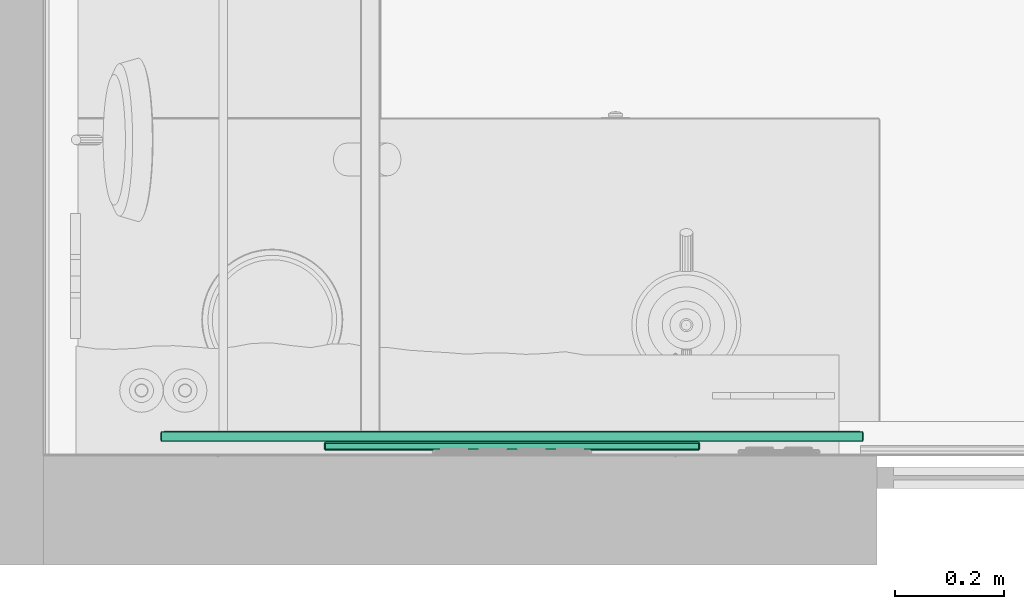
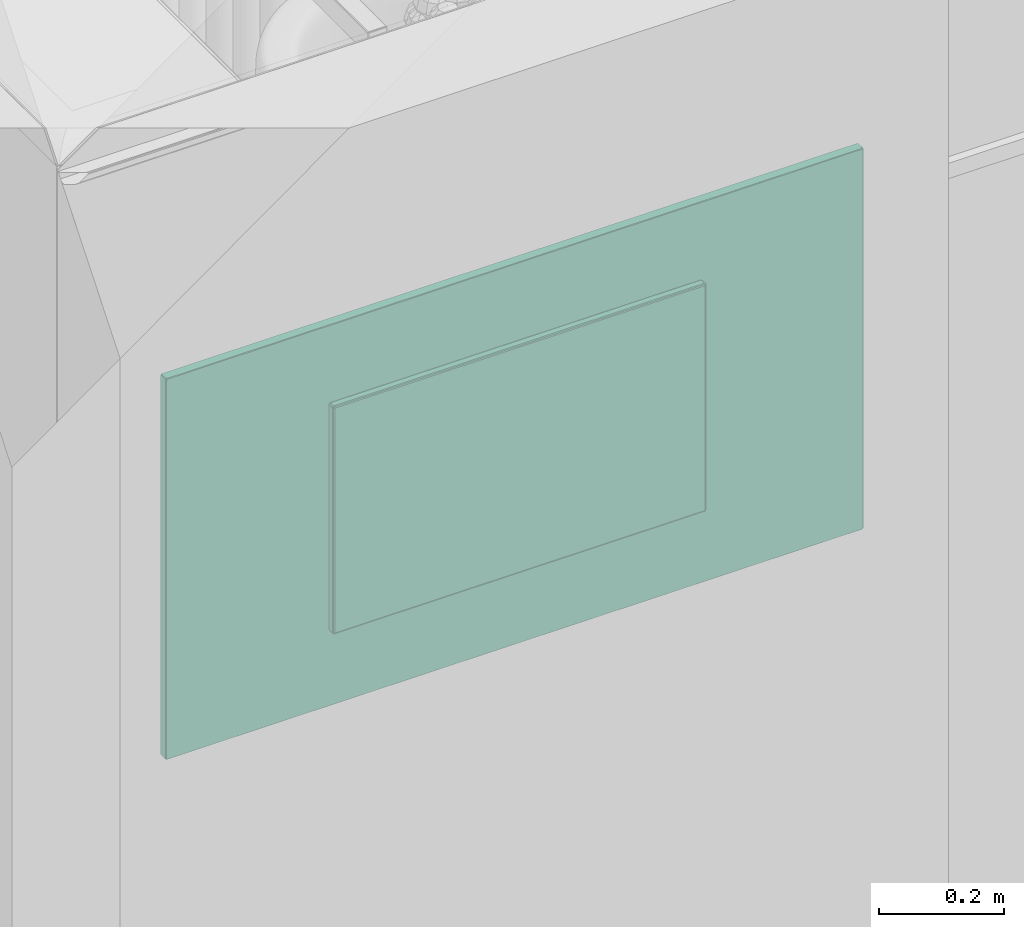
# One storey, part 3 of 11: 1 audio visual appliance.
"""IFC4 building model written with IfcOpenShell, lengths in millimetres."""

from ifc_helpers import new_model, si_unit, frame, origin_with_axes, place, context, subcontext, project, spatial, triangles, material, constituent, constituent_set, element, save


model = new_model("IFC4")

# Units and contexts
model_context = context("Model", 3, precision=0.01, world=origin_with_axes())
body_context = subcontext(model_context, "Body", "Model", "MODEL_VIEW")
ifc_project = project(units=[si_unit("LENGTHUNIT", "METRE", prefix="MILLI"), si_unit("AREAUNIT", "SQUARE_METRE"), si_unit("VOLUMEUNIT", "CUBIC_METRE"), si_unit("PLANEANGLEUNIT", "RADIAN")], contexts=[model_context])

# Site, building, storey
site_placement = place(None, origin_with_axes())
site = spatial("IfcSite", under=ifc_project, at=site_placement, Name="Участок", CompositionType="ELEMENT")
building_placement = place(site_placement, origin_with_axes())
building = spatial("IfcBuilding", under=site, at=building_placement, Name="Жилой дом", CompositionType="ELEMENT")
storey_placement = place(building_placement, origin_with_axes())
storey = spatial("IfcBuildingStorey", under=building, at=storey_placement, Name="Квартира ±0,000", CompositionType="ELEMENT", Elevation=0.0)

# Audio visual appliance
ifc_material_1 = material(Name="Металл чёрный матовый RAL 9005")
ifc_constituent_1 = constituent(ifc_material_1)
ifc_material_2 = material(Name="Экран ТВ")
ifc_constituent_2 = constituent(ifc_material_2)
ifc_constituent_set = constituent_set(constituents=[ifc_constituent_1, ifc_constituent_2], Name="Металл чёрный матовый RAL 9005 + Экран ТВ")
audio_visual_appliance_placement = place(storey_placement, frame((215.0, 10.0, 1700.0)))
element("IfcAudioVisualAppliance", 1, at=audio_visual_appliance_placement, inside=storey, material=ifc_constituent_set, Name="Телевизор 58\" настенный (кронштейн)", PredefinedType="DISPLAY", context=body_context, shape_type="Tessellation", body=[
    triangles([(987.0, 13.0, 150.0), (987.0, 13.0, 150.0), (987.0, 13.0, 150.0), (987.0, 3.0, 150.0), (987.0, 3.0, 150.0), (987.0, 3.0, 150.0), (303.0, 3.0, 150.0), (303.0, 3.0, 150.0), (303.0, 3.0, 150.0), (303.0, 13.0, 150.0), (303.0, 13.0, 150.0), (303.0, 13.0, 150.0), (987.0, 15.1, 150.9), (988.5, 14.5, 150.9), (989.1, 13.0, 150.9), (989.1, 3.0, 150.9), (988.5, 1.5, 150.9), (987.0, 0.9, 150.9), (303.0, 0.9, 150.9), (301.5, 1.5, 150.9), (300.9, 3.0, 150.9), (300.9, 13.0, 150.9), (301.5, 14.5, 150.9), (303.0, 15.1, 150.9), (987.0, 16.0, 153.0), (989.1, 15.1, 153.0), (990.0, 13.0, 153.0), (990.0, 3.0, 153.0), (989.1, 0.9, 153.0), (987.0, 0.0, 153.0), (303.0, 0.0, 153.0), (300.9, 0.9, 153.0), (300.0, 3.0, 153.0), (300.0, 13.0, 153.0), (300.9, 15.1, 153.0), (303.0, 16.0, 153.0), (987.0, 16.0, 592.0), (989.1, 15.1, 592.0), (990.0, 13.0, 592.0), (990.0, 3.0, 592.0), (989.1, 0.9, 592.0), (987.0, 0.0, 592.0), (303.0, 0.0, 592.0), (300.9, 0.9, 592.0), (300.0, 3.0, 592.0), (300.0, 13.0, 592.0), (300.9, 15.1, 592.0), (303.0, 16.0, 592.0), (987.0, 15.1, 594.1), (988.5, 14.5, 594.1), (989.1, 13.0, 594.1), (989.1, 3.0, 594.1), (988.5, 1.5, 594.1), (987.0, 0.9, 594.1), (303.0, 0.9, 594.1), (301.5, 1.5, 594.1), (300.9, 3.0, 594.1), (300.9, 13.0, 594.1), (301.5, 14.5, 594.1), (303.0, 15.1, 594.1), (987.0, 13.0, 595.0), (987.0, 13.0, 595.0), (987.0, 13.0, 595.0), (987.0, 3.0, 595.0), (987.0, 3.0, 595.0), (987.0, 3.0, 595.0), (303.0, 3.0, 595.0), (303.0, 3.0, 595.0), (303.0, 3.0, 595.0), (303.0, 13.0, 595.0), (303.0, 13.0, 595.0), (303.0, 13.0, 595.0), (645.0, 8.0, 150.0), (987.0, 13.0, 150.0), (987.0, 3.0, 150.0), (645.0, 8.0, 150.0), (987.0, 3.0, 150.0), (303.0, 3.0, 150.0), (645.0, 8.0, 150.0), (303.0, 3.0, 150.0), (303.0, 13.0, 150.0), (645.0, 8.0, 150.0), (303.0, 13.0, 150.0), (987.0, 13.0, 150.0), (645.0, 8.0, 595.0), (303.0, 13.0, 595.0), (303.0, 3.0, 595.0), (645.0, 8.0, 595.0), (303.0, 3.0, 595.0), (987.0, 3.0, 595.0), (645.0, 8.0, 595.0), (987.0, 3.0, 595.0), (987.0, 13.0, 595.0), (645.0, 8.0, 595.0), (987.0, 13.0, 595.0), (303.0, 13.0, 595.0), (1287.0, 32.0, 0.0), (1287.0, 32.0, 0.0), (1287.0, 32.0, 0.0), (1287.0, 32.0, 0.0), (1287.0, 19.0, 0.0), (1287.0, 19.0, 0.0), (1287.0, 19.0, 0.0), (1287.0, 19.0, 0.0), (3.0, 19.0, 0.0), (3.0, 19.0, 0.0), (3.0, 19.0, 0.0), (3.0, 19.0, 0.0), (3.0, 32.0, 0.0), (3.0, 32.0, 0.0), (3.0, 32.0, 0.0), (3.0, 32.0, 0.0), (1287.0, 33.5, 0.4), (1287.8, 33.3, 0.4), (1288.3, 32.8, 0.4), (1288.5, 32.0, 0.4), (1288.5, 19.0, 0.4), (1288.3, 18.2, 0.4), (1287.8, 17.7, 0.4), (1287.0, 17.5, 0.4), (3.0, 17.5, 0.4), (2.2, 17.7, 0.4), (1.7, 18.2, 0.4), (1.5, 19.0, 0.4), (1.5, 32.0, 0.4), (1.7, 32.8, 0.4), (2.2, 33.3, 0.4), (3.0, 33.5, 0.4), (1287.0, 34.6, 1.5), (1288.3, 34.2, 1.5), (1289.2, 33.3, 1.5), (1289.6, 32.0, 1.5), (1289.6, 19.0, 1.5), (1289.2, 17.7, 1.5), (1288.3, 16.8, 1.5), (1287.0, 16.4, 1.5), (3.0, 16.4, 1.5), (1.7, 16.8, 1.5), (0.8, 17.7, 1.5), (0.4, 19.0, 1.5), (0.4, 32.0, 1.5), (0.8, 33.3, 1.5), (1.7, 34.2, 1.5), (3.0, 34.6, 1.5), (1287.0, 35.0, 3.0), (1288.5, 34.6, 3.0), (1289.6, 33.5, 3.0), (1290.0, 32.0, 3.0), (1290.0, 19.0, 3.0), (1289.6, 17.5, 3.0), (1288.5, 16.4, 3.0), (1287.0, 16.0, 3.0), (3.0, 16.0, 3.0), (1.5, 16.4, 3.0), (0.4, 17.5, 3.0), (0.0, 19.0, 3.0), (0.0, 32.0, 3.0), (0.4, 33.5, 3.0), (1.5, 34.6, 3.0), (3.0, 35.0, 3.0), (1287.0, 35.0, 742.0), (1288.5, 34.6, 742.0), (1289.6, 33.5, 742.0), (1290.0, 32.0, 742.0), (1290.0, 19.0, 742.0), (1289.6, 17.5, 742.0), (1288.5, 16.4, 742.0), (1287.0, 16.0, 742.0), (3.0, 16.0, 742.0), (1.5, 16.4, 742.0), (0.4, 17.5, 742.0), (0.0, 19.0, 742.0), (0.0, 32.0, 742.0), (0.4, 33.5, 742.0), (1.5, 34.6, 742.0), (3.0, 35.0, 742.0), (1287.0, 34.6, 743.5), (1288.3, 34.2, 743.5), (1289.2, 33.3, 743.5), (1289.6, 32.0, 743.5), (1289.6, 19.0, 743.5), (1289.2, 17.7, 743.5), (1288.3, 16.8, 743.5), (1287.0, 16.4, 743.5), (3.0, 16.4, 743.5), (1.7, 16.8, 743.5), (0.8, 17.7, 743.5), (0.4, 19.0, 743.5), (0.4, 32.0, 743.5), (0.8, 33.3, 743.5), (1.7, 34.2, 743.5), (3.0, 34.6, 743.5), (1287.0, 33.5, 744.6), (1287.8, 33.3, 744.6), (1288.3, 32.8, 744.6), (1288.5, 32.0, 744.6), (1288.5, 19.0, 744.6), (1288.3, 18.2, 744.6), (1287.8, 17.7, 744.6), (1287.0, 17.5, 744.6), (3.0, 17.5, 744.6), (2.2, 17.7, 744.6), (1.7, 18.2, 744.6), (1.5, 19.0, 744.6), (1.5, 32.0, 744.6), (1.7, 32.8, 744.6), (2.2, 33.3, 744.6), (3.0, 33.5, 744.6), (1287.0, 32.0, 745.0), (1287.0, 32.0, 745.0), (1287.0, 32.0, 745.0), (1287.0, 32.0, 745.0), (1287.0, 19.0, 745.0), (1287.0, 19.0, 745.0), (1287.0, 19.0, 745.0), (1287.0, 19.0, 745.0), (3.0, 19.0, 745.0), (3.0, 19.0, 745.0), (3.0, 19.0, 745.0), (3.0, 19.0, 745.0), (3.0, 32.0, 745.0), (3.0, 32.0, 745.0), (3.0, 32.0, 745.0), (3.0, 32.0, 745.0), (645.0, 25.5, 0.0), (1287.0, 32.0, 0.0), (1287.0, 19.0, 0.0), (645.0, 25.5, 0.0), (1287.0, 19.0, 0.0), (3.0, 19.0, 0.0), (645.0, 25.5, 0.0), (3.0, 19.0, 0.0), (3.0, 32.0, 0.0), (645.0, 25.5, 0.0), (3.0, 32.0, 0.0), (1287.0, 32.0, 0.0), (645.0, 25.5, 745.0), (3.0, 32.0, 745.0), (3.0, 19.0, 745.0), (645.0, 25.5, 745.0), (3.0, 19.0, 745.0), (1287.0, 19.0, 745.0), (645.0, 25.5, 745.0), (1287.0, 19.0, 745.0), (1287.0, 32.0, 745.0), (645.0, 25.5, 745.0), (1287.0, 32.0, 745.0), (3.0, 32.0, 745.0)], [[1, 2, 14], [1, 14, 13], [2, 3, 15], [2, 15, 14], [3, 4, 16], [3, 16, 15], [4, 5, 17], [4, 17, 16], [5, 6, 18], [5, 18, 17], [6, 7, 19], [6, 19, 18], [7, 8, 20], [7, 20, 19], [8, 9, 21], [8, 21, 20], [9, 10, 22], [9, 22, 21], [10, 11, 23], [10, 23, 22], [11, 12, 24], [11, 24, 23], [12, 1, 13], [12, 13, 24], [13, 14, 26], [13, 26, 25], [14, 15, 27], [14, 27, 26], [15, 16, 28], [15, 28, 27], [16, 17, 29], [16, 29, 28], [17, 18, 30], [17, 30, 29], [18, 19, 31], [18, 31, 30], [19, 20, 32], [19, 32, 31], [20, 21, 33], [20, 33, 32], [21, 22, 34], [21, 34, 33], [22, 23, 35], [22, 35, 34], [23, 24, 36], [23, 36, 35], [24, 13, 25], [24, 25, 36], [25, 26, 38], [25, 38, 37], [26, 27, 39], [26, 39, 38], [27, 28, 40], [27, 40, 39], [28, 29, 41], [28, 41, 40], [29, 30, 42], [29, 42, 41], [30, 31, 43], [30, 43, 42], [31, 32, 44], [31, 44, 43], [32, 33, 45], [32, 45, 44], [33, 34, 46], [33, 46, 45], [34, 35, 47], [34, 47, 46], [35, 36, 48], [35, 48, 47], [36, 25, 37], [36, 37, 48], [37, 38, 50], [37, 50, 49], [38, 39, 51], [38, 51, 50], [39, 40, 52], [39, 52, 51], [40, 41, 53], [40, 53, 52], [41, 42, 54], [41, 54, 53], [42, 43, 55], [42, 55, 54], [43, 44, 56], [43, 56, 55], [44, 45, 57], [44, 57, 56], [45, 46, 58], [45, 58, 57], [46, 47, 59], [46, 59, 58], [47, 48, 60], [47, 60, 59], [48, 37, 49], [48, 49, 60], [49, 50, 62], [49, 62, 61], [50, 51, 63], [50, 63, 62], [51, 52, 64], [51, 64, 63], [52, 53, 65], [52, 65, 64], [53, 54, 66], [53, 66, 65], [54, 55, 67], [54, 67, 66], [55, 56, 68], [55, 68, 67], [56, 57, 69], [56, 69, 68], [57, 58, 70], [57, 70, 69], [58, 59, 71], [58, 71, 70], [59, 60, 72], [59, 72, 71], [60, 49, 61], [60, 61, 72], [73, 74, 75], [76, 77, 78], [79, 80, 81], [82, 83, 84], [85, 86, 87], [88, 89, 90], [91, 92, 93], [94, 95, 96], [97, 98, 114], [97, 114, 113], [98, 99, 115], [98, 115, 114], [99, 100, 116], [99, 116, 115], [100, 101, 117], [100, 117, 116], [101, 102, 118], [101, 118, 117], [102, 103, 119], [102, 119, 118], [103, 104, 120], [103, 120, 119], [104, 105, 121], [104, 121, 120], [105, 106, 122], [105, 122, 121], [106, 107, 123], [106, 123, 122], [107, 108, 124], [107, 124, 123], [108, 109, 125], [108, 125, 124], [109, 110, 126], [109, 126, 125], [110, 111, 127], [110, 127, 126], [111, 112, 128], [111, 128, 127], [112, 97, 113], [112, 113, 128], [113, 114, 130], [113, 130, 129], [114, 115, 131], [114, 131, 130], [115, 116, 132], [115, 132, 131], [116, 117, 133], [116, 133, 132], [117, 118, 134], [117, 134, 133], [118, 119, 135], [118, 135, 134], [119, 120, 136], [119, 136, 135], [120, 121, 137], [120, 137, 136], [121, 122, 138], [121, 138, 137], [122, 123, 139], [122, 139, 138], [123, 124, 140], [123, 140, 139], [124, 125, 141], [124, 141, 140], [125, 126, 142], [125, 142, 141], [126, 127, 143], [126, 143, 142], [127, 128, 144], [127, 144, 143], [128, 113, 129], [128, 129, 144], [129, 130, 146], [129, 146, 145], [130, 131, 147], [130, 147, 146], [131, 132, 148], [131, 148, 147], [132, 133, 149], [132, 149, 148], [133, 134, 150], [133, 150, 149], [134, 135, 151], [134, 151, 150], [135, 136, 152], [135, 152, 151], [136, 137, 153], [136, 153, 152], [137, 138, 154], [137, 154, 153], [138, 139, 155], [138, 155, 154], [139, 140, 156], [139, 156, 155], [140, 141, 157], [140, 157, 156], [141, 142, 158], [141, 158, 157], [142, 143, 159], [142, 159, 158], [143, 144, 160], [143, 160, 159], [144, 129, 145], [144, 145, 160], [145, 146, 162], [145, 162, 161], [146, 147, 163], [146, 163, 162], [147, 148, 164], [147, 164, 163], [148, 149, 165], [148, 165, 164], [149, 150, 166], [149, 166, 165], [150, 151, 167], [150, 167, 166], [151, 152, 168], [151, 168, 167], [152, 153, 169], [152, 169, 168], [153, 154, 170], [153, 170, 169], [154, 155, 171], [154, 171, 170], [155, 156, 172], [155, 172, 171], [156, 157, 173], [156, 173, 172], [157, 158, 174], [157, 174, 173], [158, 159, 175], [158, 175, 174], [159, 160, 176], [159, 176, 175], [160, 145, 161], [160, 161, 176], [161, 162, 178], [161, 178, 177], [162, 163, 179], [162, 179, 178], [163, 164, 180], [163, 180, 179], [164, 165, 181], [164, 181, 180], [165, 166, 182], [165, 182, 181], [166, 167, 183], [166, 183, 182], [167, 168, 184], [167, 184, 183], [168, 169, 185], [168, 185, 184], [169, 170, 186], [169, 186, 185], [170, 171, 187], [170, 187, 186], [171, 172, 188], [171, 188, 187], [172, 173, 189], [172, 189, 188], [173, 174, 190], [173, 190, 189], [174, 175, 191], [174, 191, 190], [175, 176, 192], [175, 192, 191], [176, 161, 177], [176, 177, 192], [177, 178, 194], [177, 194, 193], [178, 179, 195], [178, 195, 194], [179, 180, 196], [179, 196, 195], [180, 181, 197], [180, 197, 196], [181, 182, 198], [181, 198, 197], [182, 183, 199], [182, 199, 198], [183, 184, 200], [183, 200, 199], [184, 185, 201], [184, 201, 200], [185, 186, 202], [185, 202, 201], [186, 187, 203], [186, 203, 202], [187, 188, 204], [187, 204, 203], [188, 189, 205], [188, 205, 204], [189, 190, 206], [189, 206, 205], [190, 191, 207], [190, 207, 206], [191, 192, 208], [191, 208, 207], [192, 177, 193], [192, 193, 208], [193, 194, 210], [193, 210, 209], [194, 195, 211], [194, 211, 210], [195, 196, 212], [195, 212, 211], [196, 197, 213], [196, 213, 212], [197, 198, 214], [197, 214, 213], [198, 199, 215], [198, 215, 214], [199, 200, 216], [199, 216, 215], [200, 201, 217], [200, 217, 216], [201, 202, 218], [201, 218, 217], [202, 203, 219], [202, 219, 218], [203, 204, 220], [203, 220, 219], [204, 205, 221], [204, 221, 220], [205, 206, 222], [205, 222, 221], [206, 207, 223], [206, 223, 222], [207, 208, 224], [207, 224, 223], [208, 193, 209], [208, 209, 224], [225, 226, 227], [228, 229, 230], [231, 232, 233], [234, 235, 236], [237, 238, 239], [240, 241, 242], [243, 244, 245], [246, 247, 248]]),
    triangles([(1284.0, 35.0, 6.0), (1284.0, 35.6, 6.0), (1284.0, 35.6, 739.0), (1284.0, 35.0, 739.0), (6.0, 35.6, 6.0), (6.0, 35.0, 6.0), (6.0, 35.0, 739.0), (6.0, 35.6, 739.0), (1284.0, 35.6, 6.0), (6.0, 35.6, 6.0), (6.0, 35.6, 739.0), (1284.0, 35.6, 739.0), (6.0, 35.0, 6.0), (1284.0, 35.0, 6.0), (1284.0, 35.0, 739.0), (6.0, 35.0, 739.0), (6.0, 35.0, 739.0), (1284.0, 35.0, 739.0), (1284.0, 35.6, 739.0), (6.0, 35.6, 739.0), (6.0, 35.6, 6.0), (1284.0, 35.6, 6.0), (1284.0, 35.0, 6.0), (6.0, 35.0, 6.0)], [[1, 2, 3], [1, 3, 4], [5, 6, 7], [5, 7, 8], [9, 10, 11], [9, 11, 12], [13, 14, 15], [13, 15, 16], [17, 18, 19], [17, 19, 20], [21, 22, 23], [21, 23, 24]]),
])

save(model, "model.ifc")
